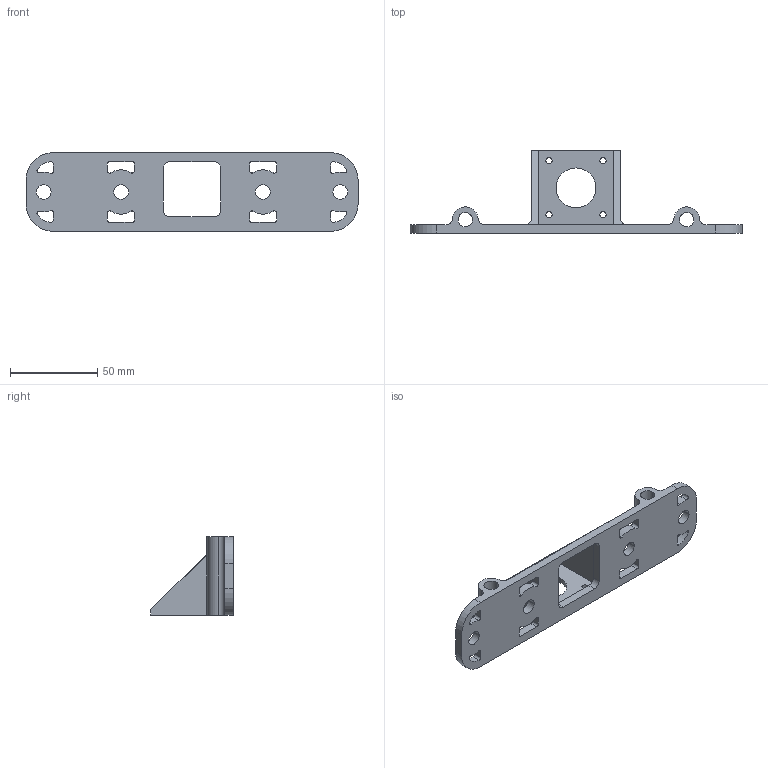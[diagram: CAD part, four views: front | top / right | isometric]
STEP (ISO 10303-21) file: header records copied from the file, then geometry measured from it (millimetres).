
FILE_DESCRIPTION (( 'STEP AP203' ), '1' );
FILE_NAME ('bed rail support motor side.STEP', '2017-10-24T20:00:50', ( '' ), ( '' ), 'SwSTEP 2.0', 'SolidWorks 2016', '' );
FILE_SCHEMA (( 'CONFIG_CONTROL_DESIGN' ));
Length unit declared in the file: inch
Products named in the file (1): bed rail support motor side
Bounding box: 190.5 x 47.26 x 45 mm (x, y, z)
Volume: 50998.3 mm3; surface area: 28658.6 mm2
Topology: 1 solids, 1 shells, 118 faces, 342 edges, 226 vertices
Faces by surface type: cylinder 80, plane 38
Entity records: 4115 total; most frequent: DIRECTION 736, CARTESIAN_POINT 693, ORIENTED_EDGE 684, EDGE_CURVE 342, AXIS2_PLACEMENT_3D 277, VERTEX_POINT 226, LINE 182, VECTOR 182
